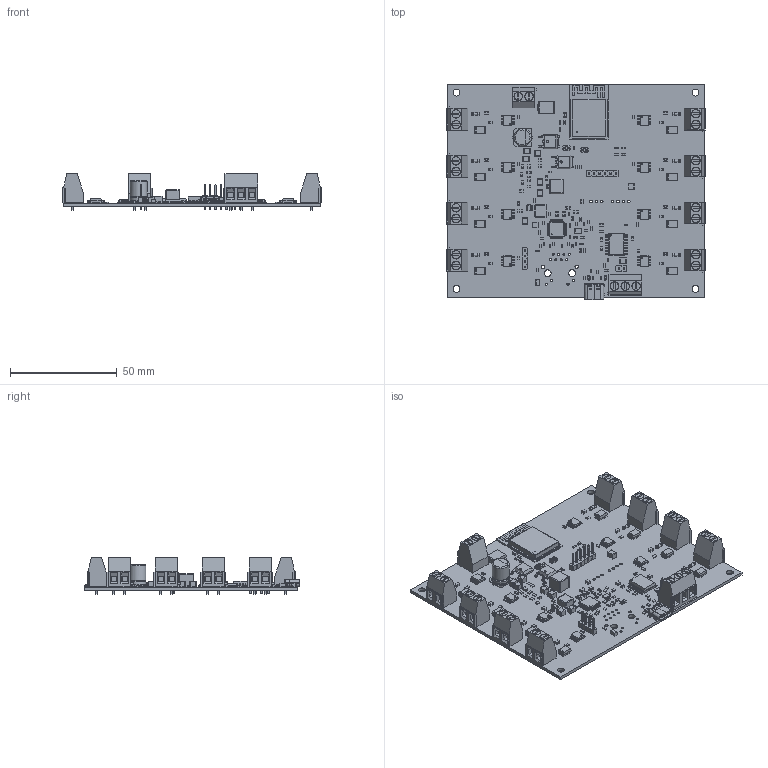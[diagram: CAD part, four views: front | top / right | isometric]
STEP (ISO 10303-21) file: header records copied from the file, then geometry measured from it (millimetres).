
FILE_DESCRIPTION(('KiCad electronic assembly'),'2;1');
FILE_NAME('msc-evt1-mechanical-review.step','2026-10-04T05:59:00',( 'Pcbnew'),('Kicad'),'Open CASCADE STEP processor 7.9', 'KiCad to STEP converter','Unknown');
FILE_SCHEMA(('AUTOMOTIVE_DESIGN { 1 0 10303 214 1 1 1 1 }'));
Length unit declared in the file: millimetre
Products named in the file (69): msc-evt1-mechanical-review 1; R_1210_3225Metric; D_SMC; R_0805_2012Metric; R_MiniMELF_MMA-0204; D_SMB; PinHeader_1x06_P2.54mm_Vertical; PinHeader_1x06_P254mm_Vertical; R_0603_1608Metric; C_0603_1608Metric; C_1206_3216Metric; TerminalBlock_Phoenix_MKDS-1,5-3-5.08_1x03_P5.08mm_Horizontal; C_0805_2012Metric; Crystal_SMD_3225-4Pin_3.2x2.5mm; SW_SPST_B3U-1000P; TerminalBlock_Phoenix_MKDS-1,5-2-5.08_1x02_P5.08mm_Horizontal; L_0603_1608Metric; TO-252-2; CQ assembly; 932d09b2-9c39-11ed-93f0-dde97e994e83; 932d09b3-9c39-11ed-93f0-dde97e994e83; 932d09b3-9c39-11ed-93f0-dde97e994e83_part; 932d09b4-9c39-11ed-93f0-dde97e994e83; 932d09b4-9c39-11ed-93f0-dde97e994e83_part; 932d09b5-9c39-11ed-93f0-dde97e994e83; 932d09b5-9c39-11ed-93f0-dde97e994e83_part; C_1210_3225Metric; LED_0603_1608Metric; SOIC-8_3.9x4.9mm_P1.27mm; PinHeader_1x04_P2.54mm_Vertical; PinHeader_1x04_P254mm_Vertical; LQFP-48_7x7mm_P0.5mm; D_SOD-323; USB_C_Receptacle_GCT_USB4105-xx-A_16P_TopMnt_Horizontal; USB_C_Receptacle_16P_TopMnt_Horizontal_GCT_USB4105-xx-A; PinHeader_1x02_P2.54mm_Vertical; PinHeader_1x02_P254mm_Vertical; L_Coilcraft_XAL6060-XXX; L_Coilcraft_XAL5030-XXX; ESP32-S3-WROOM-1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
Assembly tree (200 placements, depth 6):
  msc-evt1-mechanical-review 1
    R_1210_3225Metric
      R_1210_3225Metric
    D_SMC
      D_SMC
    R_0805_2012Metric  x17
      R_0805_2012Metric
    R_MiniMELF_MMA-0204  x8
      R_MiniMELF_MMA-0204
    D_SMB  x8
      D_SMB
    PinHeader_1x06_P2.54mm_Vertical
      PinHeader_1x06_P254mm_Vertical
    R_0603_1608Metric  x29
      R_0603_1608Metric
    C_0603_1608Metric  x34
      C_0603_1608Metric
    C_1206_3216Metric
      C_1206_3216Metric
    TerminalBlock_Phoenix_MKDS-1,5-3-5.08_1x03_P5.08mm_Horizontal
      TerminalBlock_Phoenix_MKDS-1,5-3-5.08_1x03_P5.08mm_Horizontal
    C_0805_2012Metric  x16
      C_0805_2012Metric
    Crystal_SMD_3225-4Pin_3.2x2.5mm
      Crystal_SMD_3225-4Pin_3.2x2.5mm
    SW_SPST_B3U-1000P  x2
      SW_SPST_B3U-1000P
    TerminalBlock_Phoenix_MKDS-1,5-2-5.08_1x02_P5.08mm_Horizontal  x9
      TerminalBlock_Phoenix_MKDS-1,5-2-5.08_1x02_P5.08mm_Horizontal
    L_0603_1608Metric
      L_0603_1608Metric
    TO-252-2  x2
      CQ assembly
        932d09b2-9c39-11ed-93f0-dde97e994e83
          932d09b3-9c39-11ed-93f0-dde97e994e83
            932d09b3-9c39-11ed-93f0-dde97e994e83_part
          932d09b4-9c39-11ed-93f0-dde97e994e83
            932d09b4-9c39-11ed-93f0-dde97e994e83_part
          932d09b5-9c39-11ed-93f0-dde97e994e83
            932d09b5-9c39-11ed-93f0-dde97e994e83_part
    C_1210_3225Metric  x8
      C_1210_3225Metric
    LED_0603_1608Metric  x2
      LED_0603_1608Metric
    SOIC-8_3.9x4.9mm_P1.27mm  x8
      SOIC-8_3.9x4.9mm_P1.27mm
    PinHeader_1x04_P2.54mm_Vertical
      PinHeader_1x04_P254mm_Vertical
    LQFP-48_7x7mm_P0.5mm
      LQFP-48_7x7mm_P0.5mm
    D_SOD-323  x2
      D_SOD-323
    USB_C_Receptacle_GCT_USB4105-xx-A_16P_TopMnt_Horizontal
      USB_C_Receptacle_16P_TopMnt_Horizontal_GCT_USB4105-xx-A
    PinHeader_1x02_P2.54mm_Vertical
      PinHeader_1x02_P254mm_Vertical
    L_Coilcraft_XAL6060-XXX
      L_Coilcraft_XAL6060-XXX
    L_Coilcraft_XAL5030-XXX
      L_Coilcraft_XAL5030-XXX
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Bounding box: 121.2 x 101.16 x 17.3 mm (x, y, z)
Volume: 32327.6 mm3; surface area: 46633.2 mm2
Topology: 257 solids, 257 shells, 9556 faces, 24477 edges, 15634 vertices
Faces by surface type: plane 6962, cylinder 2163, bspline 384, revolution 17, sphere 16, cone 8, torus 6
Full cylindrical faces by diameter (mm): 0.3 x20, 0.5 x3, 0.65 x2, 0.9 x8, 1 x14, 1.02 x4, 1.2 x7, 1.3 x21, 1.35 x8, 1.4 x16, 1.6 x4, 3.2 x4, 3.25 x2, 3.8 x21, 4 x21, 8 x2
Entity records: 169708 total; most frequent: CARTESIAN_POINT 24126, ORIENTED_EDGE 22793, DIRECTION 22099, EDGE_CURVE 11393, LINE 9456, VECTOR 9456, VERTEX_POINT 7179, AXIS2_PLACEMENT_3D 6320
